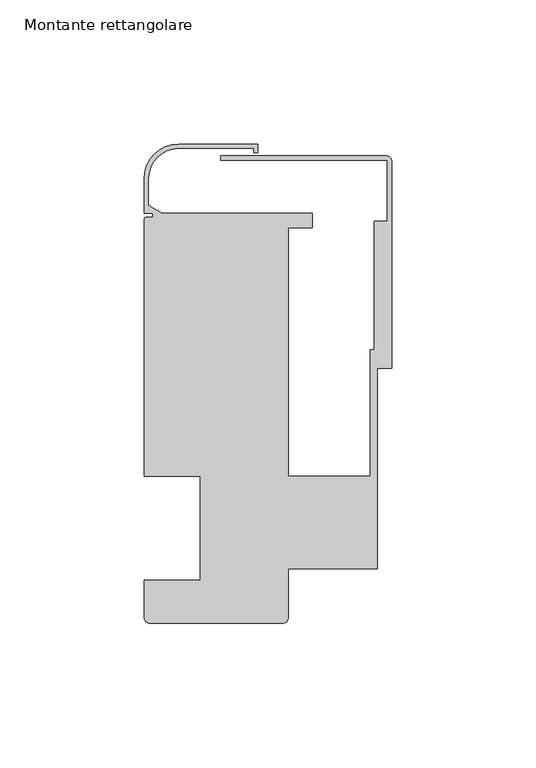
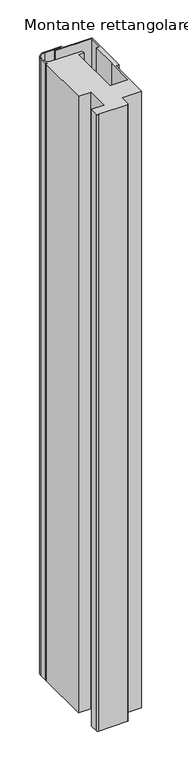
"""IFC4 building model written with IfcOpenShell, lengths in millimetres: member geometry, Montante rettangolare : Aluk_SL50_Nodo terminale_attacco superiore."""

from ifc_helpers import new_model, si_unit, point, frame, frame_2d, origin, place, context, project, spatial, polyline, circle_curve, trimmed, segment, composite_curve, outline, extrude, source, transform, mapped, element, save


def montante_rettangolare_ca2b15e5(model_context):
    return source(origin(), model_context, "Body", "SweptSolid", [
        extrude(outline(composite_curve([segment(polyline([(-85.9078859, -32.6033105), (-85.9078859, -19.6051927), (-66.3811948, -19.6051927), (-66.3811948, 16.4), (-85.8811948, 16.4), (-85.8811948, 105.4)]), True, "CONTINUOUS"), segment(trimmed(circle_curve(frame_2d((-84.8811948, 105.4)), 1.0), [point((-85.8811948, 105.4))], [point((-84.8811948, 106.4))], False, "CARTESIAN"), True, "CONTINUOUS"), segment(polyline([(-84.8811948, 106.4), (-82.9780339, 106.4), (-82.9780339, 107.75), (-85.8811948, 107.75), (-85.8811948, 119.75)]), True, "CONTINUOUS"), segment(trimmed(circle_curve(frame_2d((-73.8811948, 119.75)), 12.0), [point((-85.8811948, 119.75))], [point((-73.8811948, 131.75))], False, "CARTESIAN"), True, "CONTINUOUS"), segment(polyline([(-73.8811948, 131.75), (-46.3811948, 131.75), (-46.3811948, 128.75), (-47.8811948, 128.75), (-47.8811948, 130.2567765), (-74.0925169, 130.2567765)]), True, "CONTINUOUS"), segment(trimmed(circle_curve(frame_2d((-73.8811948, 119.75)), 10.5089014), [point((-74.0925169, 130.2567765))], [point((-84.3900963, 119.75))], True, "CARTESIAN"), True, "CONTINUOUS"), segment(polyline([(-84.3900963, 119.75), (-84.3900963, 110.4859933), (-79.8366388, 107.75), (-27.5486521, 107.75), (-27.5486521, 102.75), (-35.8811948, 102.75), (-35.8811948, 16.4), (-7.4255814, 16.4), (-7.4255814, 60.4), (-6.0, 60.4), (-6.0, 104.9078675), (-1.5, 104.9078675), (-1.5, 126.1774574), (-59.3545768, 126.1774574), (-59.3545768, 127.6774574), (-2.0, 127.6774574)]), True, "CONTINUOUS"), segment(trimmed(circle_curve(frame_2d((-2.0, 125.6774574)), 2.0), [point((-2.0, 127.6774574))], [point((0.0, 125.6774574))], False, "CARTESIAN"), True, "CONTINUOUS"), segment(polyline([(0.0, 125.6774574), (0.0, 53.8662034), (-4.9255814, 53.8662034), (-4.9255814, -15.605185), (-35.8912323, -15.605185), (-35.8912323, -19.6051927), (-35.8912323, -32.602292)]), True, "CONTINUOUS"), segment(trimmed(circle_curve(frame_2d((-37.891232, -32.602292)), 1.9999997), [point((-35.8912323, -32.602292))], [point((-37.891232, -34.6022918))], False, "CARTESIAN"), True, "CONTINUOUS"), segment(polyline([(-37.891232, -34.6022918), (-83.9089046, -34.6022918)]), True, "CONTINUOUS"), segment(trimmed(circle_curve(frame_2d((-83.9089046, -32.6033105)), 1.9989813), [point((-83.9089046, -34.6022918))], [point((-85.9078859, -32.6033105))], False, "CARTESIAN"), True, "CONTINUOUS")], self_intersect=False)), frame((0.0, 0.0, -1030.1428571), z_axis=(0.0, 0.0, 1.0), x_axis=(1.0, 0.0, 0.0)), (0.0, 0.0, 1.0), 1030.1428571),
    ])


if __name__ == "__main__":
    model = new_model("IFC4")
    model_context = context("Model", 3, world=origin())
    ifc_project = project(units=[si_unit("LENGTHUNIT", "METRE", prefix="MILLI")], contexts=[model_context])
    site = spatial("IfcSite", under=ifc_project)
    building = spatial("IfcBuilding", under=site)
    placement = place(None, origin())
    montante_rettangolare_shape = montante_rettangolare_ca2b15e5(model_context)
    element("IfcMember", 1, ObjectType="Montante rettangolare : Aluk_SL50_Nodo terminale_attacco superiore", at=placement, inside=building, context=model_context, shape_type="MappedRepresentation", body=[
        mapped(montante_rettangolare_shape, transform((0.0, 0.0, 0.0), x_axis=(1.0, 0.0, 0.0), y_axis=(0.0, 1.0, 0.0), z_axis=(0.0, 0.0, 1.0))),
    ])
    save(model, "model.ifc")
